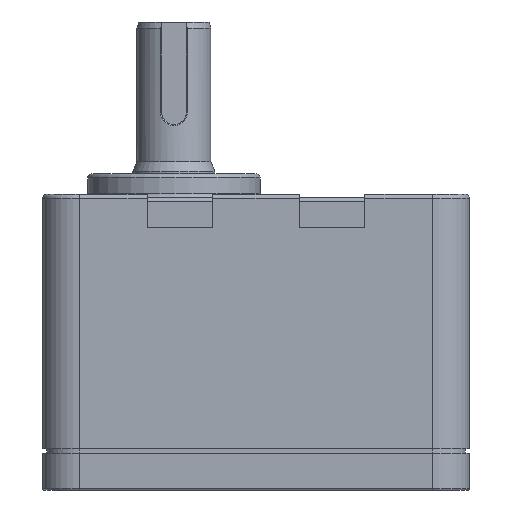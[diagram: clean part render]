
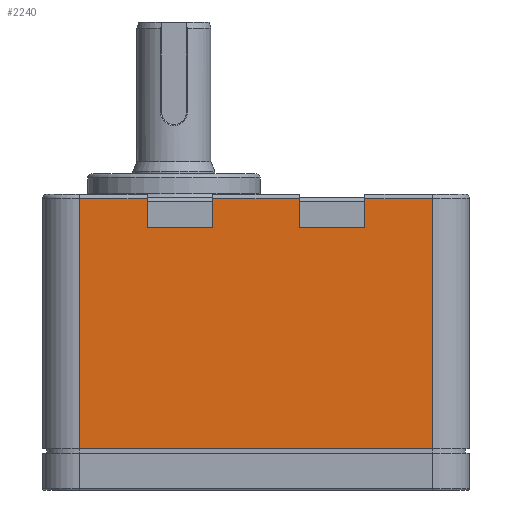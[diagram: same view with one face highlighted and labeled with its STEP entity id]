
A CAD part, left-side view. The second image highlights one B-rep face of the part: STEP entity #2240.
In plain terms, the highlighted planar face has unit normal (-1, 0, 0).
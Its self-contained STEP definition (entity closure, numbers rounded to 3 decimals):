
#2075=CARTESIAN_POINT('',(-52.0,-43.0,1.0));
#2076=VERTEX_POINT('',#2075);
#2084=CARTESIAN_POINT('',(-52.0,43.0,1.0));
#2085=VERTEX_POINT('',#2084);
#2086=CARTESIAN_POINT('',(-52.0,43.0,1.0));
#2087=DIRECTION('',(0.0,-1.0,0.0));
#2088=VECTOR('',#2087,86.0);
#2089=LINE('',#2086,#2088);
#2090=EDGE_CURVE('',#2085,#2076,#2089,.T.);
#2146=CARTESIAN_POINT('',(-52.0,-52.0,0.0));
#2147=DIRECTION('',(-1.0,0.0,0.0));
#2148=DIRECTION('',(0.0,0.0,1.0));
#2149=AXIS2_PLACEMENT_3D('',#2146,#2147,#2148);
#2150=PLANE('',#2149);
#2151=ORIENTED_EDGE('',*,*,#2090,.T.);
#2152=CARTESIAN_POINT('',(-52.0,-43.0,62.));
#2153=VERTEX_POINT('',#2152);
#2154=CARTESIAN_POINT('',(-52.0,-43.0,62.));
#2155=DIRECTION('',(0.0,0.0,-1.0));
#2156=VECTOR('',#2155,61.);
#2157=LINE('',#2154,#2156);
#2158=EDGE_CURVE('',#2153,#2076,#2157,.T.);
#2159=ORIENTED_EDGE('',*,*,#2158,.F.);
#2160=CARTESIAN_POINT('',(-52.0,-26.5,62.));
#2161=VERTEX_POINT('',#2160);
#2162=CARTESIAN_POINT('',(-52.0,-26.5,62.));
#2163=DIRECTION('',(0.0,-1.0,0.0));
#2164=VECTOR('',#2163,16.5);
#2165=LINE('',#2162,#2164);
#2166=EDGE_CURVE('',#2161,#2153,#2165,.T.);
#2167=ORIENTED_EDGE('',*,*,#2166,.F.);
#2168=CARTESIAN_POINT('',(-52.0,-26.5,55.));
#2169=VERTEX_POINT('',#2168);
#2170=CARTESIAN_POINT('',(-52.0,-26.5,62.));
#2171=DIRECTION('',(0.0,0.0,-1.0));
#2172=VECTOR('',#2171,7.0);
#2173=LINE('',#2170,#2172);
#2174=EDGE_CURVE('',#2161,#2169,#2173,.T.);
#2175=ORIENTED_EDGE('',*,*,#2174,.T.);
#2176=CARTESIAN_POINT('',(-52.0,-10.5,55.0));
#2177=VERTEX_POINT('',#2176);
#2178=CARTESIAN_POINT('',(-52.0,-26.5,55.0));
#2179=DIRECTION('',(0.0,1.0,0.0));
#2180=VECTOR('',#2179,16.);
#2181=LINE('',#2178,#2180);
#2182=EDGE_CURVE('',#2169,#2177,#2181,.T.);
#2183=ORIENTED_EDGE('',*,*,#2182,.T.);
#2184=CARTESIAN_POINT('',(-52.0,-10.5,62.));
#2185=VERTEX_POINT('',#2184);
#2186=CARTESIAN_POINT('',(-52.0,-10.5,55.0));
#2187=DIRECTION('',(0.0,0.0,1.0));
#2188=VECTOR('',#2187,7.);
#2189=LINE('',#2186,#2188);
#2190=EDGE_CURVE('',#2177,#2185,#2189,.T.);
#2191=ORIENTED_EDGE('',*,*,#2190,.T.);
#2192=CARTESIAN_POINT('',(-52.0,10.5,62.));
#2193=VERTEX_POINT('',#2192);
#2194=CARTESIAN_POINT('',(-52.0,10.5,62.));
#2195=DIRECTION('',(0.0,-1.0,0.0));
#2196=VECTOR('',#2195,21.);
#2197=LINE('',#2194,#2196);
#2198=EDGE_CURVE('',#2193,#2185,#2197,.T.);
#2199=ORIENTED_EDGE('',*,*,#2198,.F.);
#2200=CARTESIAN_POINT('',(-52.0,10.5,55.0));
#2201=VERTEX_POINT('',#2200);
#2202=CARTESIAN_POINT('',(-52.0,10.5,62.));
#2203=DIRECTION('',(0.0,0.0,-1.0));
#2204=VECTOR('',#2203,7.);
#2205=LINE('',#2202,#2204);
#2206=EDGE_CURVE('',#2193,#2201,#2205,.T.);
#2207=ORIENTED_EDGE('',*,*,#2206,.T.);
#2208=CARTESIAN_POINT('',(-52.0,26.5,55.0));
#2209=VERTEX_POINT('',#2208);
#2210=CARTESIAN_POINT('',(-52.0,10.5,55.0));
#2211=DIRECTION('',(0.0,1.0,0.0));
#2212=VECTOR('',#2211,16.);
#2213=LINE('',#2210,#2212);
#2214=EDGE_CURVE('',#2201,#2209,#2213,.T.);
#2215=ORIENTED_EDGE('',*,*,#2214,.T.);
#2216=CARTESIAN_POINT('',(-52.0,26.5,62.));
#2217=VERTEX_POINT('',#2216);
#2218=CARTESIAN_POINT('',(-52.0,26.5,55.0));
#2219=DIRECTION('',(0.0,0.0,1.0));
#2220=VECTOR('',#2219,7.);
#2221=LINE('',#2218,#2220);
#2222=EDGE_CURVE('',#2209,#2217,#2221,.T.);
#2223=ORIENTED_EDGE('',*,*,#2222,.T.);
#2224=CARTESIAN_POINT('',(-52.0,43.0,62.));
#2225=VERTEX_POINT('',#2224);
#2226=CARTESIAN_POINT('',(-52.0,43.0,62.));
#2227=DIRECTION('',(0.0,-1.0,0.0));
#2228=VECTOR('',#2227,16.5);
#2229=LINE('',#2226,#2228);
#2230=EDGE_CURVE('',#2225,#2217,#2229,.T.);
#2231=ORIENTED_EDGE('',*,*,#2230,.F.);
#2232=CARTESIAN_POINT('',(-52.0,43.0,1.0));
#2233=DIRECTION('',(0.0,0.0,1.0));
#2234=VECTOR('',#2233,61.);
#2235=LINE('',#2232,#2234);
#2236=EDGE_CURVE('',#2085,#2225,#2235,.T.);
#2237=ORIENTED_EDGE('',*,*,#2236,.F.);
#2238=EDGE_LOOP('',(#2151,#2159,#2167,#2175,#2183,#2191,#2199,#2207,#2215,#2223,#2231,#2237));
#2239=FACE_OUTER_BOUND('',#2238,.T.);
#2240=ADVANCED_FACE('',(#2239),#2150,.T.);
